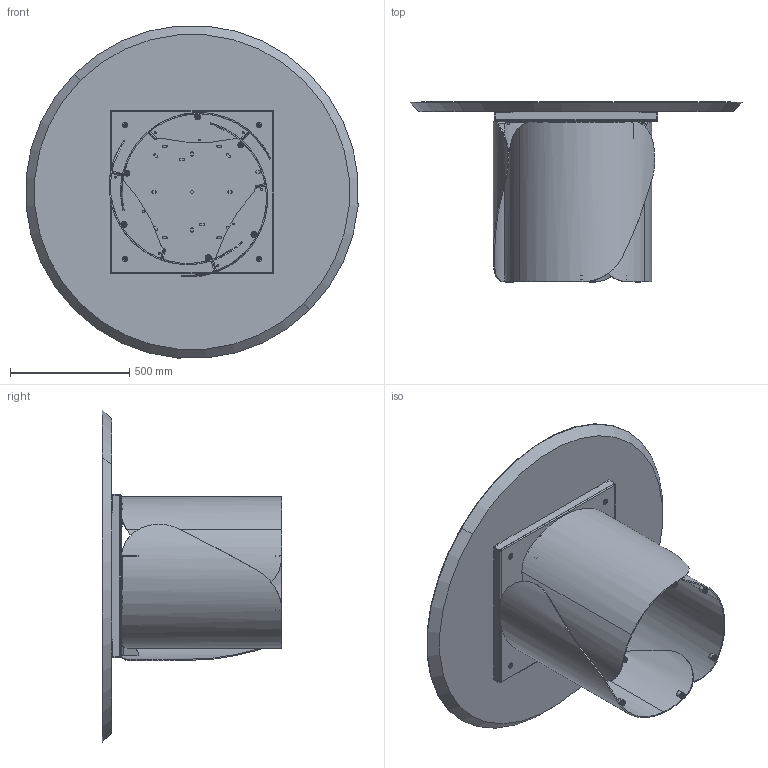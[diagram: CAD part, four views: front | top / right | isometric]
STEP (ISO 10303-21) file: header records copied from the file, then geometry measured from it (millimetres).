
FILE_DESCRIPTION (( 'STEP AP203' ), '1' );
FILE_NAME ('ON06W.STEP', '2024-08-06T13:30:13', ( '' ), ( '' ), 'SwSTEP 2.0', 'SolidWorks 2022', '' );
FILE_SCHEMA (( 'CONFIG_CONTROL_DESIGN' ));
Length unit declared in the file: millimetre
Products named in the file (15): M8xXXmm_M8x55mm; W1XCMXX-00-Piani Rotondi legno_D.1400; TTAV0801 TELAIO UNIVERSALE TONDO-PIASTRINA; OND000000_01-00-PIASTRA SUPERIORE BASE ONDA; COLLO BASE ONDA SINGOLA CON FERRAMENTA; ON06W; TTAV0801-02-TELAIO UNIVERSALE TONDO; M8xXXmm_M8x20mm; TTAV0801-02-TELAIO UNIVERSALE TONDO-VASSOIO; rondella M8_8X24; OND000000-03-ONDA BASE GREZZA; OND000000_02-00-CILINDRO DI FISSAGGIO Ø25X17 M8; COLLO TELAIO UNIVERSALE TTAV0801 CON FERRAMENTA_MTG TOP LEGNO-MARMO-KING; OND000000_03-00-LAMIERA CURVATA PRINCIPALE_OND00000X-00-ONDA BASE GREZZA PROTOTIPO; PIEDINO PER ONDA
Assembly tree (50 placements, depth 4):
  ON06W
    COLLO TELAIO UNIVERSALE TTAV0801 CON FERRAMENTA_MTG TOP LEGNO-MARMO-KING
      TTAV0801-02-TELAIO UNIVERSALE TONDO
        TTAV0801-02-TELAIO UNIVERSALE TONDO-VASSOIO
        TTAV0801 TELAIO UNIVERSALE TONDO-PIASTRINA  x4
      rondella M8_8X24  x4
      M8xXXmm_M8x55mm  x4
    COLLO BASE ONDA SINGOLA CON FERRAMENTA  x3
      OND000000-03-ONDA BASE GREZZA
        OND000000_03-00-LAMIERA CURVATA PRINCIPALE_OND00000X-00-ONDA BASE GREZZA PROTOTIPO
        OND000000_01-00-PIASTRA SUPERIORE BASE ONDA
        OND000000_02-00-CILINDRO DI FISSAGGIO Ø25X17 M8  x2
      PIEDINO PER ONDA
    rondella M8_8X24  x12
    M8xXXmm_M8x20mm  x12
    W1XCMXX-00-Piani Rotondi legno_D.1400
Bounding box: 1394.67 x 756 x 1394.67 mm (x, y, z)
Volume: 69377996.4 mm3; surface area: 7799289.9 mm2
Topology: 62 solids, 62 shells, 1703 faces, 4015 edges, 2464 vertices
Faces by surface type: plane 674, cylinder 567, torus 216, cone 186, bspline 60
Entity records: 20549 total; most frequent: CARTESIAN_POINT 4759, DIRECTION 2840, ORIENTED_EDGE 2704, EDGE_CURVE 1352, AXIS2_PLACEMENT_3D 1043, VERTEX_POINT 866, VECTOR 754, LINE 754
